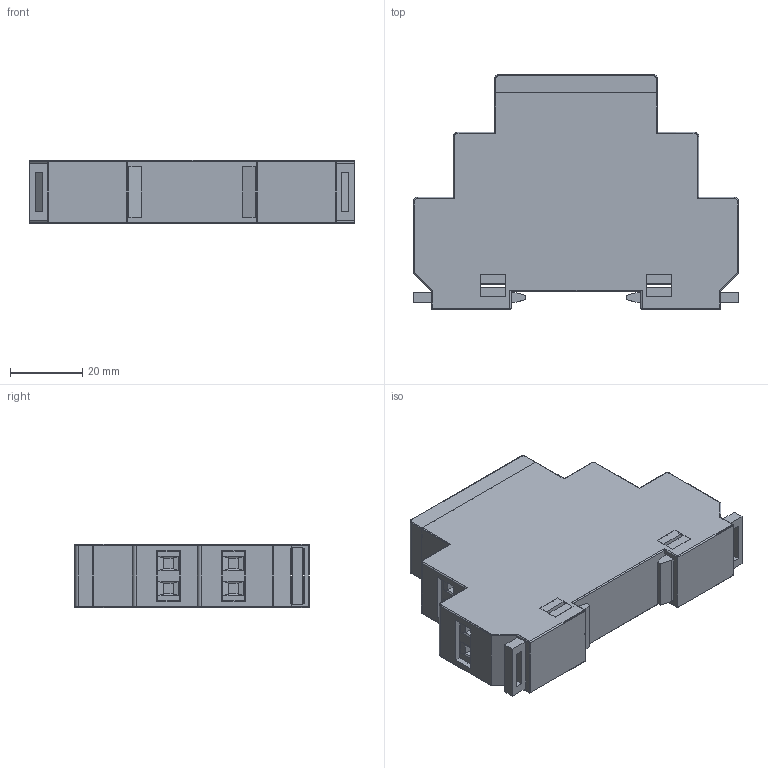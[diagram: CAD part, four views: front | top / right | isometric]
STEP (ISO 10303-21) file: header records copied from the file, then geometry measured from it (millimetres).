
FILE_DESCRIPTION (( 'STEP AP214' ), '1' );
FILE_NAME ('MMR-T2-200-A230__MMR-TD-200-A230.step', '2014-09-04T08:17:17', ( '' ), ( '' ), 'SwSTEP 2.0', 'SolidWorks 2011', '' );
FILE_SCHEMA (( 'AUTOMOTIVE_DESIGN' ));
Length unit declared in the file: millimetre
Products named in the file (1): MMR-T2-200-A230__MMR-TD-200-A230
Bounding box: 90 x 65 x 17.6 mm (x, y, z)
Volume: 17032.8 mm3; surface area: 44655.5 mm2
Topology: 8 solids, 8 shells, 949 faces, 2572 edges, 1641 vertices
Faces by surface type: plane 776, cylinder 126, torus 39, bspline 8
Entity records: 40418 total; most frequent: CARTESIAN_POINT 5807, ORIENTED_EDGE 5128, DIRECTION 4800, EDGE_CURVE 2564, VECTOR 2068, LINE 2068, VERTEX_POINT 1641, AXIS2_PLACEMENT_3D 1366
